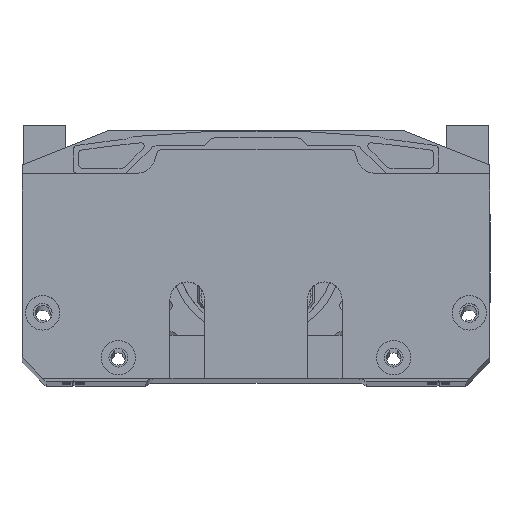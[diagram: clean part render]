
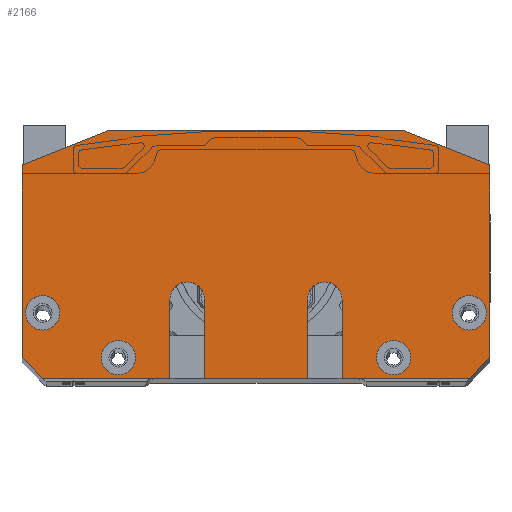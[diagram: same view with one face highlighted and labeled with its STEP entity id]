
A CAD part, top view. The second image highlights one B-rep face of the part: STEP entity #2166.
In plain terms, the highlighted planar face has unit normal (0, 0, 1).
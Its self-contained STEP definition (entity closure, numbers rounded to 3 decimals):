
#2166=ADVANCED_FACE('9',(#3223,#3224,#3225,#3226,#3227),#2811,.T.);
#2811=PLANE('',#18393);
#3223=FACE_BOUND('',#4227,.T.);
#3224=FACE_BOUND('',#4228,.T.);
#3225=FACE_BOUND('',#4229,.T.);
#3226=FACE_BOUND('',#4230,.T.);
#3227=FACE_BOUND('',#4231,.T.);
#4227=EDGE_LOOP('',(#8532,#8533,#8534,#8535,#8536,#8537,#8538,#8539,#8540,
#8541,#8542,#8543,#8544,#8545,#8546,#8547));
#4228=EDGE_LOOP('',(#8548));
#4229=EDGE_LOOP('',(#8549));
#4230=EDGE_LOOP('',(#8550));
#4231=EDGE_LOOP('',(#8551));
#5359=CIRCLE('',#18352,5.);
#5361=CIRCLE('',#18357,5.);
#5379=CIRCLE('',#18389,5.);
#5380=CIRCLE('',#18390,5.);
#5381=CIRCLE('',#18391,5.);
#5382=CIRCLE('',#18392,5.);
#8532=ORIENTED_EDGE('',*,*,#13918,.T.);
#8533=ORIENTED_EDGE('',*,*,#13920,.T.);
#8534=ORIENTED_EDGE('',*,*,#13914,.T.);
#8535=ORIENTED_EDGE('',*,*,#13020,.F.);
#8536=ORIENTED_EDGE('',*,*,#13926,.T.);
#8537=ORIENTED_EDGE('',*,*,#13928,.T.);
#8538=ORIENTED_EDGE('',*,*,#13922,.T.);
#8539=ORIENTED_EDGE('',*,*,#13017,.F.);
#8540=ORIENTED_EDGE('',*,*,#13034,.T.);
#8541=ORIENTED_EDGE('',*,*,#13060,.F.);
#8542=ORIENTED_EDGE('',*,*,#13937,.T.);
#8543=ORIENTED_EDGE('',*,*,#13959,.F.);
#8544=ORIENTED_EDGE('',*,*,#13940,.T.);
#8545=ORIENTED_EDGE('',*,*,#12962,.F.);
#8546=ORIENTED_EDGE('',*,*,#13005,.T.);
#8547=ORIENTED_EDGE('',*,*,#13023,.F.);
#8548=ORIENTED_EDGE('',*,*,#13960,.F.);
#8549=ORIENTED_EDGE('',*,*,#13961,.F.);
#8550=ORIENTED_EDGE('',*,*,#13962,.F.);
#8551=ORIENTED_EDGE('',*,*,#13963,.F.);
#11123=VERTEX_POINT('',#25943);
#11124=VERTEX_POINT('',#25945);
#11152=VERTEX_POINT('',#26024);
#11158=VERTEX_POINT('',#26045);
#11159=VERTEX_POINT('',#26047);
#11160=VERTEX_POINT('',#26050);
#11161=VERTEX_POINT('',#26052);
#11162=VERTEX_POINT('',#26055);
#11169=VERTEX_POINT('',#26076);
#11191=VERTEX_POINT('',#26126);
#11718=VERTEX_POINT('',#29671);
#11720=VERTEX_POINT('',#29677);
#11722=VERTEX_POINT('',#29686);
#11724=VERTEX_POINT('',#29692);
#11733=VERTEX_POINT('',#29717);
#11735=VERTEX_POINT('',#29723);
#11745=VERTEX_POINT('',#29763);
#11746=VERTEX_POINT('',#29765);
#11747=VERTEX_POINT('',#29767);
#11748=VERTEX_POINT('',#29769);
#12962=EDGE_CURVE('',#11123,#11124,#15087,.T.);
#13005=EDGE_CURVE('',#11123,#11152,#15120,.T.);
#13017=EDGE_CURVE('',#11158,#11159,#15131,.T.);
#13020=EDGE_CURVE('',#11160,#11161,#15134,.T.);
#13023=EDGE_CURVE('',#11162,#11152,#15137,.T.);
#13034=EDGE_CURVE('',#11158,#11169,#15147,.T.);
#13060=EDGE_CURVE('',#11191,#11169,#15171,.T.);
#13914=EDGE_CURVE('',#11718,#11161,#15586,.T.);
#13918=EDGE_CURVE('',#11162,#11720,#15590,.T.);
#13920=EDGE_CURVE('',#11720,#11718,#5359,.T.);
#13922=EDGE_CURVE('',#11722,#11159,#15592,.T.);
#13926=EDGE_CURVE('',#11160,#11724,#15596,.T.);
#13928=EDGE_CURVE('',#11724,#11722,#5361,.T.);
#13937=EDGE_CURVE('',#11191,#11733,#15601,.T.);
#13940=EDGE_CURVE('',#11735,#11124,#15604,.T.);
#13959=EDGE_CURVE('',#11735,#11733,#15610,.T.);
#13960=EDGE_CURVE('',#11745,#11745,#5379,.T.);
#13961=EDGE_CURVE('',#11746,#11746,#5380,.T.);
#13962=EDGE_CURVE('',#11747,#11747,#5381,.T.);
#13963=EDGE_CURVE('',#11748,#11748,#5382,.T.);
#15087=LINE('',#25944,#16359);
#15120=LINE('',#26025,#16392);
#15131=LINE('',#26046,#16403);
#15134=LINE('',#26051,#16406);
#15137=LINE('',#26056,#16409);
#15147=LINE('',#26077,#16419);
#15171=LINE('',#26127,#16443);
#15586=LINE('',#29670,#16858);
#15590=LINE('',#29678,#16862);
#15592=LINE('',#29685,#16864);
#15596=LINE('',#29693,#16868);
#15601=LINE('',#29716,#16873);
#15604=LINE('',#29722,#16876);
#15610=LINE('',#29761,#16882);
#16359=VECTOR('',#20161,1.);
#16392=VECTOR('',#20232,1.);
#16403=VECTOR('',#20251,1.);
#16406=VECTOR('',#20254,1.);
#16409=VECTOR('',#20257,1.);
#16419=VECTOR('',#20275,1.);
#16443=VECTOR('',#20307,1.);
#16858=VECTOR('',#22054,1.);
#16862=VECTOR('',#22060,1.);
#16864=VECTOR('',#22070,1.);
#16868=VECTOR('',#22076,1.);
#16873=VECTOR('',#22101,1.);
#16876=VECTOR('',#22106,1.);
#16882=VECTOR('',#22158,1.);
#18352=AXIS2_PLACEMENT_3D('',#29681,#22065,#22066);
#18357=AXIS2_PLACEMENT_3D('',#29696,#22081,#22082);
#18389=AXIS2_PLACEMENT_3D('',#29762,#22159,#22160);
#18390=AXIS2_PLACEMENT_3D('',#29764,#22161,#22162);
#18391=AXIS2_PLACEMENT_3D('',#29766,#22163,#22164);
#18392=AXIS2_PLACEMENT_3D('',#29768,#22165,#22166);
#18393=AXIS2_PLACEMENT_3D('',#29770,#22167,#22168);
#20161=DIRECTION('',(0.,1.,0.));
#20232=DIRECTION('',(0.707,-0.707,0.));
#20251=DIRECTION('',(-1.,0.,0.));
#20254=DIRECTION('',(-1.,0.,0.));
#20257=DIRECTION('',(-1.,0.,0.));
#20275=DIRECTION('',(0.707,0.707,0.));
#20307=DIRECTION('',(0.,-1.,0.));
#22054=DIRECTION('',(0.,-1.,0.));
#22060=DIRECTION('',(0.,1.,0.));
#22065=DIRECTION('',(0.,0.,-1.));
#22066=DIRECTION('',(1.,0.,0.));
#22070=DIRECTION('',(0.,-1.,0.));
#22076=DIRECTION('',(0.,1.,0.));
#22081=DIRECTION('',(0.,0.,-1.));
#22082=DIRECTION('',(-1.,0.,0.));
#22101=DIRECTION('',(-0.928,0.371,0.));
#22106=DIRECTION('',(-0.928,-0.371,0.));
#22158=DIRECTION('',(1.,0.,0.));
#22159=DIRECTION('',(0.,0.,1.));
#22160=DIRECTION('',(1.,0.,0.));
#22161=DIRECTION('',(0.,0.,1.));
#22162=DIRECTION('',(1.,0.,0.));
#22163=DIRECTION('',(0.,0.,1.));
#22164=DIRECTION('',(1.,0.,0.));
#22165=DIRECTION('',(0.,0.,1.));
#22166=DIRECTION('',(1.,0.,0.));
#22167=DIRECTION('',(0.,0.,1.));
#22168=DIRECTION('',(-1.,0.,0.));
#25943=CARTESIAN_POINT('',(-68.,6.,382.));
#25944=CARTESIAN_POINT('',(-68.,0.,382.));
#25945=CARTESIAN_POINT('',(-68.,62.,382.));
#26024=CARTESIAN_POINT('',(-62.,0.,382.));
#26025=CARTESIAN_POINT('',(-49.,-13.,382.));
#26045=CARTESIAN_POINT('',(62.,0.,382.));
#26046=CARTESIAN_POINT('',(68.,0.,382.));
#26047=CARTESIAN_POINT('',(25.,0.,382.));
#26050=CARTESIAN_POINT('',(15.,0.,382.));
#26051=CARTESIAN_POINT('',(68.,0.,382.));
#26052=CARTESIAN_POINT('',(-15.,0.,382.));
#26055=CARTESIAN_POINT('',(-25.,0.,382.));
#26056=CARTESIAN_POINT('',(68.,0.,382.));
#26076=CARTESIAN_POINT('',(68.,6.,382.));
#26077=CARTESIAN_POINT('',(49.,-13.,382.));
#26126=CARTESIAN_POINT('',(68.,62.,382.));
#26127=CARTESIAN_POINT('',(68.,0.,382.));
#29670=CARTESIAN_POINT('',(-15.,23.,382.));
#29671=CARTESIAN_POINT('',(-15.,23.,382.));
#29677=CARTESIAN_POINT('',(-25.,23.,382.));
#29678=CARTESIAN_POINT('',(-25.,23.,382.));
#29681=CARTESIAN_POINT('',(-20.,23.,382.));
#29685=CARTESIAN_POINT('',(25.,23.,382.));
#29686=CARTESIAN_POINT('',(25.,23.,382.));
#29692=CARTESIAN_POINT('',(15.,23.,382.));
#29693=CARTESIAN_POINT('',(15.,23.,382.));
#29696=CARTESIAN_POINT('',(20.,23.,382.));
#29716=CARTESIAN_POINT('',(18.345,81.862,382.));
#29717=CARTESIAN_POINT('',(43.,72.,382.));
#29722=CARTESIAN_POINT('',(-18.345,81.862,382.));
#29723=CARTESIAN_POINT('',(-43.,72.,382.));
#29761=CARTESIAN_POINT('',(68.,72.,382.));
#29762=CARTESIAN_POINT('',(-62.,19.,382.));
#29763=CARTESIAN_POINT('',(-57.,19.,382.));
#29764=CARTESIAN_POINT('',(62.,19.,382.));
#29765=CARTESIAN_POINT('',(67.,19.,382.));
#29766=CARTESIAN_POINT('',(-40.,6.,382.));
#29767=CARTESIAN_POINT('',(-35.,6.,382.));
#29768=CARTESIAN_POINT('',(40.,6.,382.));
#29769=CARTESIAN_POINT('',(45.,6.,382.));
#29770=CARTESIAN_POINT('',(0.,36.,382.));
